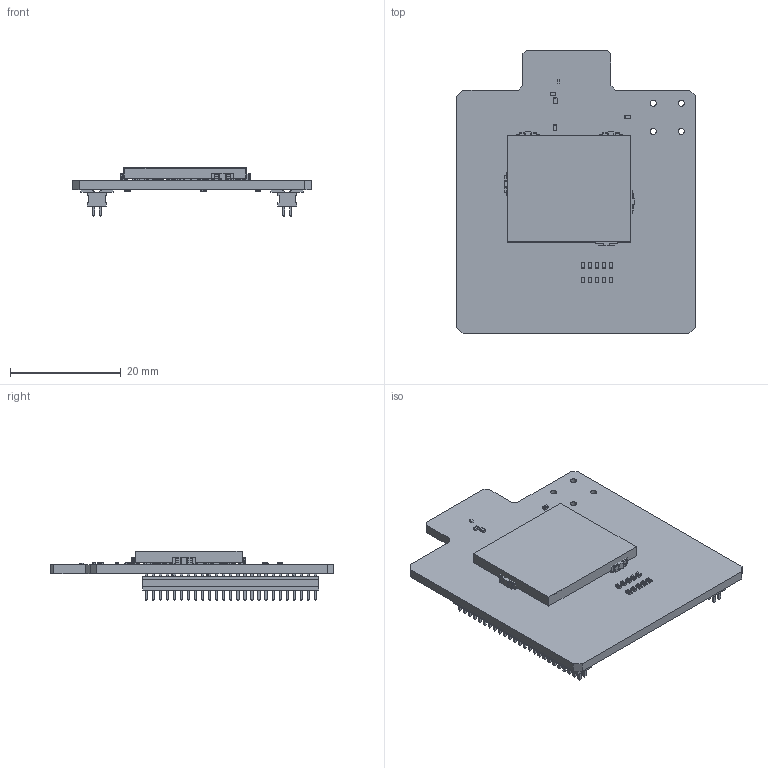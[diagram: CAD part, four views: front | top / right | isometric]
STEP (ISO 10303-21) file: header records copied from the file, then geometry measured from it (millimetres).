
FILE_DESCRIPTION(('Open CASCADE Model'),'2;1');
FILE_NAME('Open CASCADE Shape Model','2025-01-17T16:15:06',('Author'),( 'Open CASCADE'),'Open CASCADE STEP processor 7.5','Open CASCADE 7.5' ,'Unknown');
FILE_SCHEMA(('AUTOMOTIVE_DESIGN { 1 0 10303 214 1 1 1 1 }'));
Length unit declared in the file: millimetre
Products named in the file (115): PCB; Board; Open CASCADE STEP translator 7.5 2.1.1; SB11; R0402; 6678929584; Extruded; HW1; Shield_Miniboard_V2; C21; C0402; 7173283376; U1; 7197593680; Sphere; 7197594960; Cylinder; 7197595280; ANT1; 7197592880; R9; R8; R7; R6; R5; CN1; FTSH-125-02-L-DV; _FTSH-125-02-L-DV_body; _FTSH-125-02-L-DV_pins1; _FTSH-125-02-L-DV_pins2; CN2; R14; C17; 7173284656; C15; C6; C7; C8; C14; L4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
Assembly tree (200 placements, depth 4):
  PCB
    Board
      Open CASCADE STEP translator 7.5 2.1.1
    SB11
      R0402
      6678929584
        Extruded
    HW1
      Shield_Miniboard_V2
    C21
      C0402
      7173283376
        Extruded
    U1
      7197593680  x6
        Sphere
      7197594960
        Cylinder
      7197595280
        Extruded
    ANT1
      7197592880
        Extruded
    R9
      R0402
      7173283376
        Extruded
    R8
      R0402
      7173283376
        Extruded
    R7
      R0402
      7173283376
        Extruded
    R6
      R0402
      7173283376
        Extruded
    R5
      R0402
      7173283376
        Extruded
    CN1
      FTSH-125-02-L-DV
        _FTSH-125-02-L-DV_body
        _FTSH-125-02-L-DV_pins1
        _FTSH-125-02-L-DV_pins2
    CN2
      FTSH-125-02-L-DV
        _FTSH-125-02-L-DV_body
        _FTSH-125-02-L-DV_pins1
        _FTSH-125-02-L-DV_pins2
    R14
      R0402
      7173283376
        Extruded
    C17
      C0402
      7173284656
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Bounding box: 43 x 51.11 x 8.9 mm (x, y, z)
Volume: 4206.8 mm3; surface area: 8783 mm2
Topology: 159 solids, 159 shells, 10530 faces, 25156 edges, 14401 vertices
Faces by surface type: plane 4730, cylinder 2960, bspline 1604, sphere 915, revolution 168, torus 153
Full cylindrical faces by diameter (mm): 0.2 x1, 0.4 x1, 1.1 x4
Entity records: 86183 total; most frequent: CARTESIAN_POINT 20918, ORIENTED_EDGE 11158, DIRECTION 10484, EDGE_CURVE 5579, LINE 4560, VECTOR 4560, VERTEX_POINT 3474, AXIS2_PLACEMENT_3D 2958
